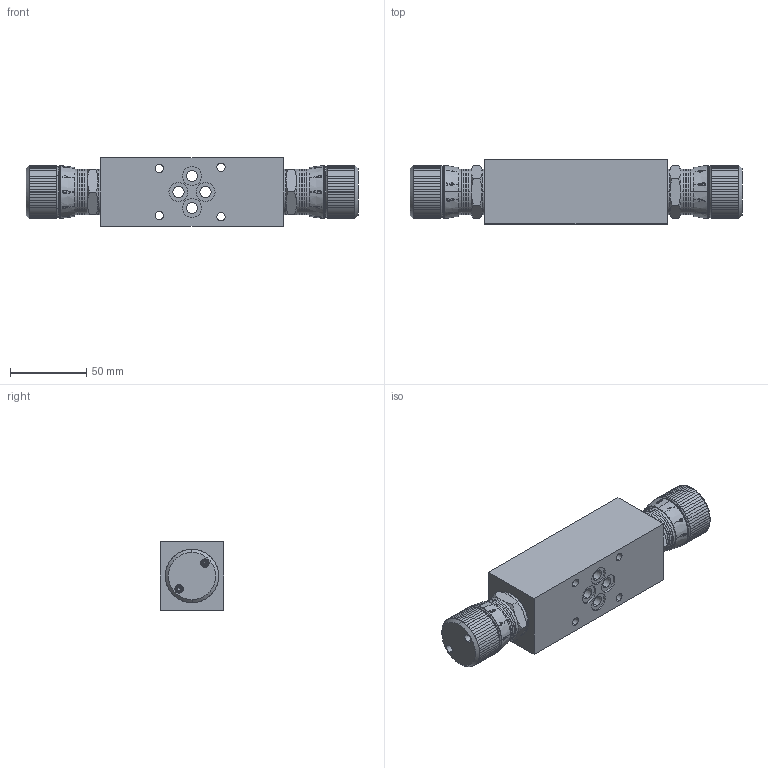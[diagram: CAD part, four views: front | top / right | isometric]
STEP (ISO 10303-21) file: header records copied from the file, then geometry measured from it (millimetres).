
FILE_DESCRIPTION (( 'STEP AP214' ), '1' );
FILE_NAME ('ADRAB6.STEP', '2017-04-10T12:57:45', ( '' ), ( '' ), 'SwSTEP 2.0', 'SolidWorks 2016', '' );
FILE_SCHEMA (( 'AUTOMOTIVE_DESIGN' ));
Length unit declared in the file: millimetre
Products named in the file (1): ADRAB6
Bounding box: 218 x 42 x 45 mm (x, y, z)
Volume: 298453.1 mm3; surface area: 43500.9 mm2
Topology: 1 solids, 1 shells, 1702 faces, 4778 edges, 3128 vertices
Faces by surface type: plane 1088, cylinder 236, bspline 236, cone 134, torus 8
Entity records: 101810 total; most frequent: CARTESIAN_POINT 43227, ORIENTED_EDGE 9540, DIRECTION 6596, EDGE_CURVE 4770, VERTEX_POINT 3128, AXIS2_PLACEMENT_3D 2429, B_SPLINE_CURVE_WITH_KNOTS 2010, EDGE_LOOP 1776
